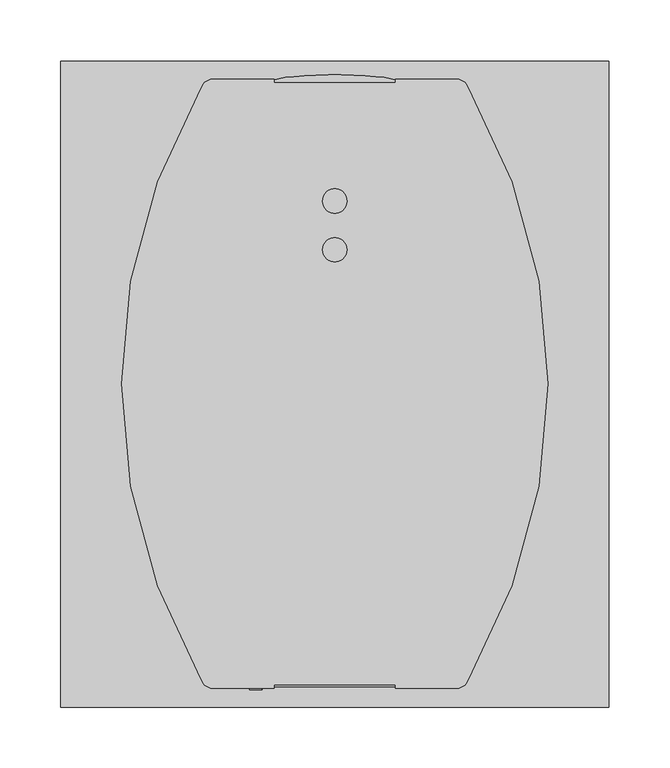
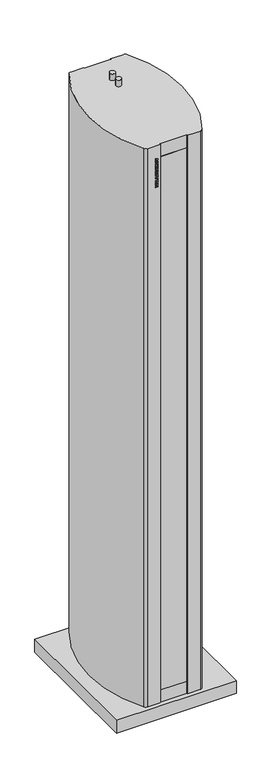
"""IFC4 building model written with IfcOpenShell, lengths in millimetres: proxy geometry, ИЗТТ_Завеса дизайнерская_Водяная : KVC-S22W35-31."""

from ifc_helpers import new_model, si_unit, point, frame, origin, origin_with_axes, place, context, project, spatial, polyline, circle_curve, ellipse_curve, trimmed, outline, extrude, faceted_brep, source, transform, mapped, element, save
from ifc_brep_helpers import plane_surface, cylinder_surface, extruded_surface, advanced_brep


def mechanical_equipment_3b4bcd0b(model_context):
    return source(origin(), model_context, "Body", "SolidModel", [
        extrude(outline(polyline([(2100.0784314, -70.0), (2100.0784314, -60.0), (2103.2156863, -60.0), (2103.2156863, -61.7647059), (2104.9865196, -63.7745098), (2106.8186275, -60.0), (2110.6666667, -60.0), (2107.192402, -66.2775735), (2110.4705882, -70.0), (2106.1997549, -70.0), (2103.2156863, -66.2224265), (2103.2156863, -70.0), (2100.0784314, -70.0)])), frame((0.0, -251.0, 0.0), z_axis=(0.0, 1.0, 0.0), x_axis=(0.0, 0.0, 1.0)), (0.0, 0.0, 1.0), 1.0),
        extrude(outline(polyline([(2117.6642157, -61.5686275), (2118.1176471, -60.0), (2121.4509804, -60.0), (2118.0778186, -70.0), (2114.0398284, -70.0), (2110.6666667, -60.0), (2114.0, -60.0), (2114.4319853, -61.5686275), (2117.6642157, -61.5686275)]), holes=[polyline([(2117.0698529, -63.9215686), (2115.0814951, -63.9215686), (2116.0588235, -67.4540441), (2117.0698529, -63.9215686)])]), frame((0.0, -251.0, 0.0), z_axis=(0.0, 1.0, 0.0), x_axis=(0.0, 0.0, 1.0)), (0.0, 0.0, 1.0), 1.0),
        extrude(outline(polyline([(2122.4313725, -70.0), (2122.4313725, -60.0), (2130.2745098, -60.0), (2130.2745098, -62.3529412), (2125.5686275, -62.3529412), (2125.5686275, -70.0), (2122.4313725, -70.0)])), frame((0.0, -251.0, 0.0), z_axis=(0.0, 1.0, 0.0), x_axis=(0.0, 0.0, 1.0)), (0.0, 0.0, 1.0), 1.0),
        extrude(outline(polyline([(2137.6642157, -61.5686275), (2138.1176471, -60.0), (2141.4509804, -60.0), (2138.0778186, -70.0), (2134.0398284, -70.0), (2130.6666667, -60.0), (2134.0, -60.0), (2134.4319853, -61.5686275), (2137.6642157, -61.5686275)]), holes=[polyline([(2137.0698529, -63.9215686), (2135.0814951, -63.9215686), (2136.0588235, -67.4540441), (2137.0698529, -63.9215686)])]), frame((0.0, -251.0, 0.0), z_axis=(0.0, 1.0, 0.0), x_axis=(0.0, 0.0, 1.0)), (0.0, 0.0, 1.0), 1.0),
        extrude(outline(polyline([(2141.8431373, -63.3394608), (2142.9491422, -60.8026961), (2146.4601716, -59.8039216), (2148.8560049, -60.2297794), (2150.3342525, -61.4813113), (2150.8627451, -63.28125), (2150.4675245, -64.7870711), (2149.2022059, -65.9129902), (2146.3223039, -66.8106618), (2146.1905637, -68.4313725), (2146.9641544, -68.1050858), (2147.3333333, -67.0588235), (2150.4705882, -67.2395833), (2149.2925858, -69.4883578), (2146.4172794, -70.1960784), (2143.9969363, -69.8039216), (2142.6749387, -68.7285539), (2142.2352941, -67.276348), (2143.1023284, -65.3492647), (2145.9761029, -64.1237745), (2147.7254902, -62.8186275), (2147.4114583, -62.0818015), (2146.5183824, -61.7647059), (2145.3204657, -62.3958333), (2144.9803922, -63.5294118), (2141.8431373, -63.3394608)])), frame((0.0, -251.0, 0.0), z_axis=(0.0, 1.0, 0.0), x_axis=(0.0, 0.0, 1.0)), (0.0, 0.0, 1.0), 1.0),
        extrude(outline(polyline([(2152.4313725, -70.0), (2152.4313725, -60.0), (2155.5686275, -60.0), (2155.5686275, -64.1176471), (2158.9019608, -64.1176471), (2158.9019608, -60.0), (2162.0392157, -60.0), (2162.0392157, -70.0), (2158.9019608, -70.0), (2158.9019608, -66.4705882), (2155.5686275, -66.4705882), (2155.5686275, -70.0), (2152.4313725, -70.0)])), frame((0.0, -251.0, 0.0), z_axis=(0.0, 1.0, 0.0), x_axis=(0.0, 0.0, 1.0)), (0.0, 0.0, 1.0), 1.0),
        extrude(outline(polyline([(2164.0, -70.0), (2164.0, -60.0), (2166.9411765, -60.0), (2166.9411765, -65.4901961), (2170.6666667, -60.0), (2173.6078431, -60.0), (2173.6078431, -70.0), (2170.6666667, -70.0), (2170.6666667, -64.4730392), (2166.9197304, -70.0), (2164.0, -70.0)])), frame((0.0, -251.0, 0.0), z_axis=(0.0, 1.0, 0.0), x_axis=(0.0, 0.0, 1.0)), (0.0, 0.0, 1.0), 1.0),
        extrude(outline(polyline([(-60.0, -251.0), (-70.0, -251.0), (-70.0, -250.0), (-60.0, -250.0), (-60.0, -251.0)])), frame((0.0, 0.0, 2175.7647059), z_axis=(0.0, 0.0, 1.0), x_axis=(1.0, 0.0, 0.0)), (0.0, 0.0, 1.0), 3.1372549),
        extrude(outline(polyline([(2181.0588235, -70.0), (2181.0588235, -60.0), (2184.1960784, -60.0), (2184.1960784, -61.7647059), (2185.9669118, -63.7745098), (2187.7990196, -60.0), (2191.6470588, -60.0), (2188.1727941, -66.2775735), (2191.4509804, -70.0), (2187.1801471, -70.0), (2184.1960784, -66.2224265), (2184.1960784, -70.0), (2181.0588235, -70.0)])), frame((0.0, -251.0, 0.0), z_axis=(0.0, 1.0, 0.0), x_axis=(0.0, 0.0, 1.0)), (0.0, 0.0, 1.0), 1.0),
        extrude(outline(polyline([(2192.2352941, -64.9938725), (2192.9261642, -62.0603554), (2194.7291667, -60.346201), (2197.5386029, -59.8039216), (2200.3250613, -60.4304534), (2202.036152, -62.1859681), (2202.627451, -65.0765931), (2201.2732843, -68.8495711), (2197.4129902, -70.1960784), (2193.6032475, -68.8250613), (2192.2352941, -64.9938725)]), holes=[polyline([(2195.372549, -64.9938725), (2195.9301471, -67.1813725), (2197.4068627, -67.8431373), (2198.9295343, -67.1920956), (2199.4901961, -65.1286765), (2198.9525123, -62.8048407), (2197.4344363, -62.1568627), (2195.9270833, -62.8186275), (2195.372549, -64.9938725)])]), frame((0.0, -251.0, 0.0), z_axis=(0.0, 1.0, 0.0), x_axis=(0.0, 0.0, 1.0)), (0.0, 0.0, 1.0), 1.0),
        extrude(outline(polyline([(2203.4117647, -70.0), (2207.1280637, -60.0), (2210.4583333, -60.0), (2214.1960784, -70.0), (2210.8627451, -70.0), (2208.8039216, -62.8033088), (2206.7420343, -70.0), (2203.4117647, -70.0)])), frame((0.0, -251.0, 0.0), z_axis=(0.0, 1.0, 0.0), x_axis=(0.0, 0.0, 1.0)), (0.0, 0.0, 1.0), 1.0),
        extrude(outline(polyline([(225.0, 265.0), (225.0, -265.0), (-225.0, -265.0), (-225.0, 265.0), (225.0, 265.0)])), origin_with_axes(), (0.0, 0.0, 1.0), 50.0),
        advanced_brep(
        [(-50.0, 250.0, 2264.0), (-100.0, 250.0, 2264.0), (-109.6523684, 242.6137681, 2264.0), (-109.6523684, -242.6137681, 2264.0), (-100.0, -250.0, 2264.0), (-50.0, -250.0, 2264.0), (-50.0, -247.0, 2264.0), (50.0, -247.0, 2264.0), (50.0, -250.0, 2264.0), (100.0, -250.0, 2264.0), (109.6523684, -242.6137681, 2264.0), (109.6523684, 242.6137681, 2264.0), (100.0, 250.0, 2264.0), (50.0, 250.0, 2264.0), (50.0, 247.0, 2264.0), (-50.0, 247.0, 2264.0), (10.0, 150.0, 2264.0), (-10.0, 150.0, 2264.0), (10.0, 110.0, 2264.0), (-10.0, 110.0, 2264.0), (-50.0, 250.0, 50.0), (-50.0, 247.0, 50.0), (50.0, 247.0, 50.0), (50.0, 250.0, 50.0), (100.0, 250.0, 50.0), (109.6523684, 242.6137681, 50.0), (109.6523684, -242.6137681, 50.0), (100.0, -250.0, 50.0), (50.0, -250.0, 50.0), (50.0, -247.0, 50.0), (-50.0, -247.0, 50.0), (-50.0, -250.0, 50.0), (-100.0, -250.0, 50.0), (-109.6523684, -242.6137681, 50.0), (-109.6523684, 242.6137681, 50.0), (-100.0, 250.0, 50.0), (-10.0, 150.0, 2289.0), (10.0, 150.0, 2289.0), (-10.0, 110.0, 2289.0), (10.0, 110.0, 2289.0)],
        [
            (0, 1),
            (1, 2, circle_curve(frame((-100.0, 240.0, 2264.0), z_axis=(0.0, 0.0, 1.0), x_axis=(1.0, 0.0, 0.0)), 10.0)),
            (2, 3, circle_curve(frame((308.0454594, 0.0, 2264.0), z_axis=(0.0, 0.0, 1.0), x_axis=(1.0, 0.0, 0.0)), 483.0454594)),
            (3, 4, circle_curve(frame((-100.0, -240.0, 2264.0), z_axis=(0.0, 0.0, 1.0), x_axis=(1.0, 0.0, 0.0)), 10.0)),
            (4, 5),
            (5, 6),
            (6, 7),
            (7, 8),
            (8, 9),
            (9, 10, circle_curve(frame((100.0, -240.0, 2264.0), z_axis=(0.0, 0.0, 1.0), x_axis=(1.0, 0.0, 0.0)), 10.0)),
            (10, 11, circle_curve(frame((-308.0454594, 0.0, 2264.0), z_axis=(0.0, 0.0, 1.0), x_axis=(1.0, 0.0, 0.0)), 483.0454594)),
            (11, 12, circle_curve(frame((100.0, 240.0, 2264.0), z_axis=(0.0, 0.0, 1.0), x_axis=(1.0, 0.0, 0.0)), 10.0)),
            (12, 13),
            (13, 14),
            (14, 15),
            (15, 0),
            (16, 17, circle_curve(frame((0.0, 150.0, 2264.0), z_axis=(0.0, 0.0, -1.0), x_axis=(1.0, 0.0, 0.0)), 10.0)),
            (17, 16, circle_curve(frame((0.0, 150.0, 2264.0), z_axis=(0.0, 0.0, -1.0), x_axis=(1.0, 0.0, 0.0)), 10.0)),
            (18, 19, circle_curve(frame((0.0, 110.0, 2264.0), z_axis=(0.0, 0.0, -1.0), x_axis=(1.0, 0.0, 0.0)), 10.0)),
            (19, 18, circle_curve(frame((0.0, 110.0, 2264.0), z_axis=(0.0, 0.0, -1.0), x_axis=(1.0, 0.0, 0.0)), 10.0)),
            (20, 21),
            (21, 22),
            (22, 23),
            (23, 24),
            (24, 25, circle_curve(frame((100.0, 240.0, 50.0), z_axis=(0.0, 0.0, -1.0), x_axis=(1.0, 0.0, 0.0)), 10.0)),
            (25, 26, circle_curve(frame((-308.0454594, 0.0, 50.0), z_axis=(0.0, 0.0, -1.0), x_axis=(1.0, 0.0, 0.0)), 483.0454594)),
            (26, 27, circle_curve(frame((100.0, -240.0, 50.0), z_axis=(0.0, 0.0, -1.0), x_axis=(1.0, 0.0, 0.0)), 10.0)),
            (27, 28),
            (28, 29),
            (29, 30),
            (30, 31),
            (31, 32),
            (32, 33, circle_curve(frame((-100.0, -240.0, 50.0), z_axis=(0.0, 0.0, -1.0), x_axis=(1.0, 0.0, 0.0)), 10.0)),
            (33, 34, circle_curve(frame((308.0454594, 0.0, 50.0), z_axis=(0.0, 0.0, -1.0), x_axis=(1.0, 0.0, 0.0)), 483.0454594)),
            (34, 35, circle_curve(frame((-100.0, 240.0, 50.0), z_axis=(0.0, 0.0, -1.0), x_axis=(1.0, 0.0, 0.0)), 10.0)),
            (35, 20),
            (0, 20),
            (35, 1),
            (34, 2),
            (33, 3),
            (32, 4),
            (8, 28),
            (27, 9),
            (31, 5),
            (30, 6),
            (29, 7),
            (12, 24),
            (23, 13),
            (22, 14),
            (21, 15),
            (36, 37, circle_curve(frame((0.0, 150.0, 2289.0), z_axis=(0.0, 0.0, 1.0), x_axis=(1.0, 0.0, 0.0)), 10.0)),
            (37, 36, circle_curve(frame((0.0, 150.0, 2289.0), z_axis=(0.0, 0.0, 1.0), x_axis=(1.0, 0.0, 0.0)), 10.0)),
            (38, 39, circle_curve(frame((0.0, 110.0, 2289.0), z_axis=(0.0, 0.0, 1.0), x_axis=(1.0, 0.0, 0.0)), 10.0)),
            (39, 38, circle_curve(frame((0.0, 110.0, 2289.0), z_axis=(0.0, 0.0, 1.0), x_axis=(1.0, 0.0, 0.0)), 10.0)),
            (36, 17),
            (16, 37),
            (38, 19),
            (18, 39),
            (26, 10),
            (25, 11),
        ],
        [
            plane_surface(frame((-93.2688019, 250.0, 2264.0), z_axis=(0.0, 0.0, 1.0), x_axis=(-1.0, 0.0, 0.0))),
            plane_surface(frame((-93.2688019, 250.0, 50.0), z_axis=(0.0, 0.0, -1.0), x_axis=(1.0, 0.0, 0.0))),
            plane_surface(frame((-50.0, 250.0, 2264.0), z_axis=(0.0, 1.0, 0.0), x_axis=(0.0, 0.0, -1.0))),
            cylinder_surface(frame((-100.0, 240.0, 50.0), z_axis=(0.0, 0.0, 1.0), x_axis=(1.0, 0.0, 0.0)), 10.0),
            cylinder_surface(frame((308.0454594, 0.0, 50.0), z_axis=(0.0, 0.0, 1.0), x_axis=(1.0, 0.0, 0.0)), 483.0454594),
            cylinder_surface(frame((-100.0, -240.0, 50.0), z_axis=(0.0, 0.0, 1.0), x_axis=(1.0, 0.0, 0.0)), 10.0),
            plane_surface(frame((50.0, -250.0, 2264.0), z_axis=(0.0, -1.0, 0.0), x_axis=(0.0, 0.0, -1.0))),
            plane_surface(frame((-100.0, -250.0, 2264.0), z_axis=(0.0, -1.0, 0.0), x_axis=(0.0, 0.0, -1.0))),
            plane_surface(frame((-50.0, -250.0, 2264.0), z_axis=(1.0, 0.0, 0.0), x_axis=(0.0, 0.0, -1.0))),
            plane_surface(frame((-50.0, -247.0, 2264.0), z_axis=(0.0, -1.0, 0.0), x_axis=(0.0, 0.0, -1.0))),
            plane_surface(frame((50.0, -247.0, 2264.0), z_axis=(-1.0, 0.0, 0.0), x_axis=(0.0, 0.0, -1.0))),
            plane_surface(frame((100.0, 250.0, 2264.0), z_axis=(0.0, 1.0, 0.0), x_axis=(0.0, 0.0, -1.0))),
            plane_surface(frame((50.0, 250.0, 2264.0), z_axis=(-1.0, 0.0, 0.0), x_axis=(0.0, 0.0, -1.0))),
            plane_surface(frame((50.0, 247.0, 2264.0), z_axis=(0.0, 1.0, 0.0), x_axis=(0.0, 0.0, -1.0))),
            plane_surface(frame((-50.0, 247.0, 2264.0), z_axis=(1.0, 0.0, 0.0), x_axis=(0.0, 0.0, -1.0))),
            plane_surface(frame((10.0, 150.0, 2289.0), z_axis=(0.0, 0.0, 1.0), x_axis=(0.0, 1.0, 0.0))),
            cylinder_surface(frame((0.0, 150.0, 2264.0), z_axis=(0.0, 0.0, 1.0), x_axis=(1.0, 0.0, 0.0)), 10.0),
            cylinder_surface(frame((0.0, 110.0, 0.0), z_axis=(0.0, 0.0, 1.0), x_axis=(1.0, 0.0, 0.0)), 10.0),
            cylinder_surface(frame((100.0, -240.0, 50.0), z_axis=(0.0, 0.0, 1.0), x_axis=(1.0, 0.0, 0.0)), 10.0),
            cylinder_surface(frame((-308.0454594, 0.0, 50.0), z_axis=(0.0, 0.0, 1.0), x_axis=(1.0, 0.0, 0.0)), 483.0454594),
            cylinder_surface(frame((100.0, 240.0, 50.0), z_axis=(0.0, 0.0, 1.0), x_axis=(1.0, 0.0, 0.0)), 10.0),
        ],
        [
            (0, [[1, 2, 3, 4, 5, 6, 7, 8, 9, 10, 11, 12, 13, 14, 15, 16], [17, 18], [19, 20]]),
            (1, [[21, 22, 23, 24, 25, 26, 27, 28, 29, 30, 31, 32, 33, 34, 35, 36]]),
            (2, [[-1, 37, -36, 38]]),
            (3, [[-2, -38, -35, 39]]),
            (4, [[-3, -39, -34, 40]]),
            (5, [[-4, -40, -33, 41]]),
            (6, [[-9, 42, -28, 43]]),
            (7, [[-5, -41, -32, 44]]),
            (8, [[-6, -44, -31, 45]]),
            (9, [[-7, -45, -30, 46]]),
            (10, [[-8, -46, -29, -42]]),
            (11, [[-13, 47, -24, 48]]),
            (12, [[-14, -48, -23, 49]]),
            (13, [[-15, -49, -22, 50]]),
            (14, [[-16, -50, -21, -37]]),
            (15, [[51, 52]]),
            (15, [[53, 54]]),
            (16, [[-51, 55, -17, 56]]),
            (16, [[-52, -56, -18, -55]]),
            (17, [[-53, 57, -19, 58]]),
            (17, [[-54, -58, -20, -57]]),
            (18, [[-10, -43, -27, 59]]),
            (19, [[-11, -59, -26, 60]]),
            (20, [[-12, -60, -25, -47]]),
        ],
    ),
        faceted_brep([(50.0, -247.0, 2214.0), (-50.0, -247.0, 2214.0), (-50.0, -248.5, 2214.0), (50.0, -248.5, 2214.0), (50.0, -247.0, 100.0), (50.0, -248.5, 100.0), (-50.0, -248.5, 100.0), (-50.0, -247.0, 100.0)], [[[0, 1, 2, 3]], [[4, 5, 6, 7]], [[1, 0, 4, 7]], [[2, 1, 7, 6]], [[3, 2, 6, 5]], [[0, 3, 5, 4]]]),
        advanced_brep(
        [(-50.0, 248.5, 2214.0), (-50.0, 247.0, 2214.0), (50.0, 247.0, 2214.0), (50.0, 248.5, 2214.0), (-50.0, 248.5, 100.0), (50.0, 248.5, 100.0), (50.0, 247.0, 100.0), (-50.0, 247.0, 100.0)],
        [
            (0, 1),
            (1, 2),
            (2, 3),
            (3, 0, ellipse_curve(frame((0.0, 248.5, 2214.0), z_axis=(0.0, 0.0, 1.0), x_axis=(-1.0, 0.0, 0.0)), 50.0, 5.0)),
            (4, 5, ellipse_curve(frame((0.0, 248.5, 100.0), z_axis=(0.0, 0.0, -1.0), x_axis=(-1.0, 0.0, 0.0)), 50.0, 5.0)),
            (5, 6),
            (6, 7),
            (7, 4),
            (0, 4),
            (7, 1),
            (6, 2),
            (5, 3),
        ],
        [
            plane_surface(frame((-50.0, -247.0, 2214.0), z_axis=(0.0, 0.0, 1.0), x_axis=(-1.0, 0.0, 0.0))),
            plane_surface(frame((-50.0, -247.0, 100.0), z_axis=(0.0, 0.0, -1.0), x_axis=(1.0, 0.0, 0.0))),
            plane_surface(frame((-50.0, 248.5, 2214.0), z_axis=(-1.0, 0.0, 0.0), x_axis=(0.0, 0.0, -1.0))),
            plane_surface(frame((-50.0, 247.0, 2214.0), z_axis=(0.0, -1.0, 0.0), x_axis=(0.0, 0.0, -1.0))),
            plane_surface(frame((50.0, 247.0, 2214.0), z_axis=(1.0, 0.0, 0.0), x_axis=(0.0, 0.0, -1.0))),
            extruded_surface(trimmed(ellipse_curve(frame((0.0, 248.5, -2114.0), z_axis=(0.0, 0.0, 1.0), x_axis=(-1.0, 0.0, 0.0)), 50.0, 5.0), [point((50.0, 248.5, -2114.0))], [point((-50.0, 248.5, -2114.0))], True, "CARTESIAN"), (0.0, 0.0, 2114.0), 2114.0),
        ],
        [
            (0, [[1, 2, 3, 4]]),
            (1, [[5, 6, 7, 8]]),
            (2, [[-1, 9, -8, 10]]),
            (3, [[-2, -10, -7, 11]]),
            (4, [[-3, -11, -6, 12]]),
            (5, [[-4, -12, -5, -9]]),
        ],
    ),
    ])


if __name__ == "__main__":
    model = new_model("IFC4")
    model_context = context("Model", 3, world=origin())
    ifc_project = project(units=[si_unit("LENGTHUNIT", "METRE", prefix="MILLI")], contexts=[model_context])
    site = spatial("IfcSite", under=ifc_project)
    building = spatial("IfcBuilding", under=site)
    placement = place(None, origin())
    mechanical_equipment_shape = mechanical_equipment_3b4bcd0b(model_context)
    element("IfcBuildingElementProxy", 1, Name="ИЗТТ_Завеса дизайнерская_Водяная : KVC-S22W35-31", ObjectType="ИЗТТ_Завеса дизайнерская_Водяная : KVC-S22W35-31", at=placement, inside=building, context=model_context, shape_type="MappedRepresentation", body=[
        mapped(mechanical_equipment_shape, transform((0.0, 0.0, 0.0), x_axis=(1.0, 0.0, 0.0), y_axis=(0.0, 1.0, 0.0), z_axis=(0.0, 0.0, 1.0))),
    ])
    save(model, "model.ifc")
